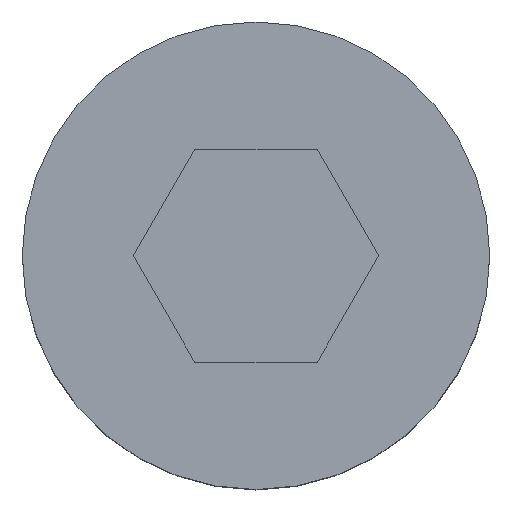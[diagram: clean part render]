
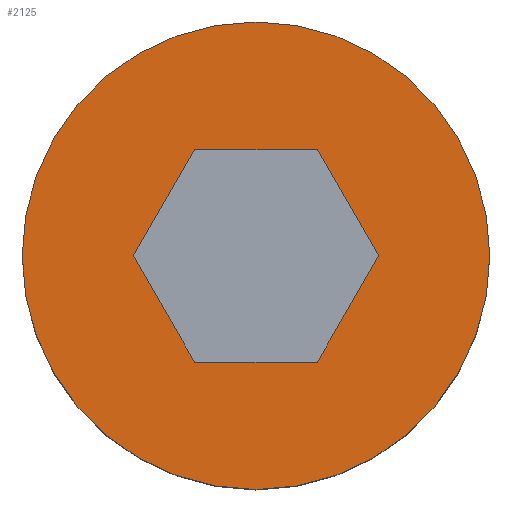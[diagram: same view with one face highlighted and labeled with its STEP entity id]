
A CAD part, top view. The second image highlights one B-rep face of the part: STEP entity #2125.
In plain terms, the highlighted planar face has unit normal (0, 0, 1).
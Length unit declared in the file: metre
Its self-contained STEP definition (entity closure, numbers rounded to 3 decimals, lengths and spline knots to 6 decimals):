
#159 = CARTESIAN_POINT ( 'NONE',  ( 0.000722, 0.00125, 0.003 ) ) ;
#181 = DIRECTION ( 'NONE',  ( 0., 0., 1. ) ) ;
#195 = VERTEX_POINT ( 'NONE', #2565 ) ;
#222 = DIRECTION ( 'NONE',  ( -0.5, -0.866, 0. ) ) ;
#237 = CARTESIAN_POINT ( 'NONE',  ( 0., 0., 0.003 ) ) ;
#242 = CARTESIAN_POINT ( 'NONE',  ( 0., 0., 0.003 ) ) ;
#271 = VERTEX_POINT ( 'NONE', #159 ) ;
#284 = AXIS2_PLACEMENT_3D ( 'NONE', #242, #1530, #287 ) ;
#287 = DIRECTION ( 'NONE',  ( 1., 0., 0. ) ) ;
#313 = ORIENTED_EDGE ( 'NONE', *, *, #3261, .F. ) ;
#433 = EDGE_CURVE ( 'NONE', #3963, #591, #2546, .T. ) ;
#444 = DIRECTION ( 'NONE',  ( 1., 0., 0. ) ) ;
#540 = LINE ( 'NONE', #1505, #1558 ) ;
#591 = VERTEX_POINT ( 'NONE', #4089 ) ;
#627 = DIRECTION ( 'NONE',  ( 1., 0., 0. ) ) ;
#666 = CARTESIAN_POINT ( 'NONE',  ( -0.000722, -0.00125, 0.003 ) ) ;
#873 = VERTEX_POINT ( 'NONE', #1506 ) ;
#941 = DIRECTION ( 'NONE',  ( -0.5, 0.866, 0. ) ) ;
#1002 = CARTESIAN_POINT ( 'NONE',  ( -0.001443, 0., 0.003 ) ) ;
#1099 = VECTOR ( 'NONE', #3931, 1. ) ;
#1167 = ORIENTED_EDGE ( 'NONE', *, *, #2862, .F. ) ;
#1274 = LINE ( 'NONE', #666, #1619 ) ;
#1275 = AXIS2_PLACEMENT_3D ( 'NONE', #2735, #181, #444 ) ;
#1365 = CIRCLE ( 'NONE', #284, 0.00275 ) ;
#1505 = CARTESIAN_POINT ( 'NONE',  ( -0.000722, 0.00125, 0.003 ) ) ;
#1506 = CARTESIAN_POINT ( 'NONE',  ( -0.000722, 0.00125, 0.003 ) ) ;
#1530 = DIRECTION ( 'NONE',  ( 0., 0., 1. ) ) ;
#1547 = CARTESIAN_POINT ( 'NONE',  ( -0.001443, 0., 0.003 ) ) ;
#1558 = VECTOR ( 'NONE', #222, 1. ) ;
#1619 = VECTOR ( 'NONE', #627, 1. ) ;
#1760 = VECTOR ( 'NONE', #2307, 1. ) ;
#1787 = VERTEX_POINT ( 'NONE', #2328 ) ;
#1833 = FACE_OUTER_BOUND ( 'NONE', #3245, .T. ) ;
#1860 = LINE ( 'NONE', #3399, #2298 ) ;
#1905 = LINE ( 'NONE', #2860, #3158 ) ;
#2125 = ADVANCED_FACE ( 'NONE', ( #2149, #1833 ), #3102, .T. ) ;
#2149 = FACE_BOUND ( 'NONE', #2488, .T. ) ;
#2158 = VERTEX_POINT ( 'NONE', #1547 ) ;
#2228 = ORIENTED_EDGE ( 'NONE', *, *, #433, .T. ) ;
#2298 = VECTOR ( 'NONE', #3686, 1. ) ;
#2303 = VERTEX_POINT ( 'NONE', #3232 ) ;
#2307 = DIRECTION ( 'NONE',  ( 0.5, -0.866, 0. ) ) ;
#2328 = CARTESIAN_POINT ( 'NONE',  ( -0.000722, -0.00125, 0.003 ) ) ;
#2363 = AXIS2_PLACEMENT_3D ( 'NONE', #237, #3435, #4079 ) ;
#2488 = EDGE_LOOP ( 'NONE', ( #3149, #1167, #3849, #3374, #2509, #313 ) ) ;
#2509 = ORIENTED_EDGE ( 'NONE', *, *, #2568, .F. ) ;
#2531 = EDGE_CURVE ( 'NONE', #2158, #1787, #3854, .T. ) ;
#2546 = CIRCLE ( 'NONE', #1275, 0.00275 ) ;
#2565 = CARTESIAN_POINT ( 'NONE',  ( 0.001443, 0., 0.003 ) ) ;
#2568 = EDGE_CURVE ( 'NONE', #271, #873, #3295, .T. ) ;
#2735 = CARTESIAN_POINT ( 'NONE',  ( 0., 0., 0.003 ) ) ;
#2860 = CARTESIAN_POINT ( 'NONE',  ( 0.001443, 0., 0.003 ) ) ;
#2862 = EDGE_CURVE ( 'NONE', #1787, #2303, #1274, .T. ) ;
#2998 = EDGE_CURVE ( 'NONE', #2303, #195, #1860, .T. ) ;
#3020 = EDGE_CURVE ( 'NONE', #873, #2158, #540, .T. ) ;
#3102 = PLANE ( 'NONE',  #2363 ) ;
#3128 = EDGE_CURVE ( 'NONE', #591, #3963, #1365, .T. ) ;
#3149 = ORIENTED_EDGE ( 'NONE', *, *, #2998, .F. ) ;
#3158 = VECTOR ( 'NONE', #941, 1. ) ;
#3161 = ORIENTED_EDGE ( 'NONE', *, *, #3128, .T. ) ;
#3232 = CARTESIAN_POINT ( 'NONE',  ( 0.000722, -0.00125, 0.003 ) ) ;
#3245 = EDGE_LOOP ( 'NONE', ( #3161, #2228 ) ) ;
#3261 = EDGE_CURVE ( 'NONE', #195, #271, #1905, .T. ) ;
#3295 = LINE ( 'NONE', #3637, #1099 ) ;
#3374 = ORIENTED_EDGE ( 'NONE', *, *, #3020, .F. ) ;
#3399 = CARTESIAN_POINT ( 'NONE',  ( 0.000722, -0.00125, 0.003 ) ) ;
#3435 = DIRECTION ( 'NONE',  ( 0., 0., 1. ) ) ;
#3637 = CARTESIAN_POINT ( 'NONE',  ( 0.000722, 0.00125, 0.003 ) ) ;
#3686 = DIRECTION ( 'NONE',  ( 0.5, 0.866, 0. ) ) ;
#3807 = CARTESIAN_POINT ( 'NONE',  ( 0.00275, 0., 0.003 ) ) ;
#3849 = ORIENTED_EDGE ( 'NONE', *, *, #2531, .F. ) ;
#3854 = LINE ( 'NONE', #1002, #1760 ) ;
#3931 = DIRECTION ( 'NONE',  ( -1., 0., 0. ) ) ;
#3963 = VERTEX_POINT ( 'NONE', #3807 ) ;
#4079 = DIRECTION ( 'NONE',  ( 1., 0., 0. ) ) ;
#4089 = CARTESIAN_POINT ( 'NONE',  ( -0.00275, 0., 0.003 ) ) ;
